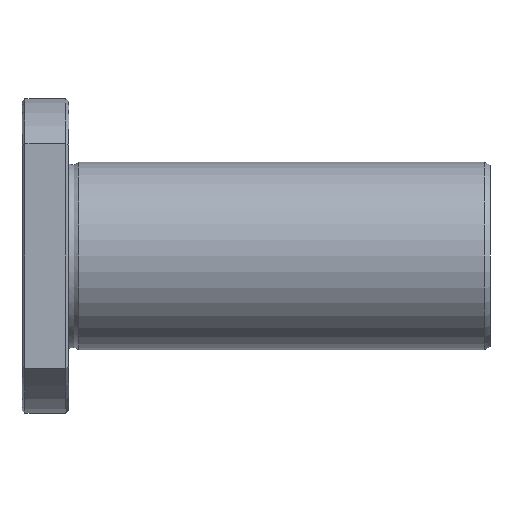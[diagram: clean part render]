
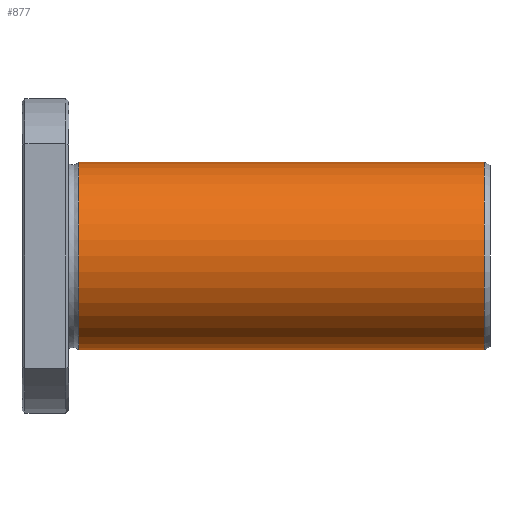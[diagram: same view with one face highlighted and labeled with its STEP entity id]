
A CAD part, front view. The second image highlights one B-rep face of the part: STEP entity #877.
In plain terms, the highlighted cylindrical face has radius 16 mm (diameter 32 mm), a full revolution.
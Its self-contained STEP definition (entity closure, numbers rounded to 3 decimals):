
#843=CARTESIAN_POINT('',(78.999,0.0,16.));
#844=VERTEX_POINT('',#843);
#845=CARTESIAN_POINT('',(78.999,0.0,0.0));
#846=DIRECTION('',(-1.0,0.0,0.0));
#847=DIRECTION('',(0.0,0.0,1.0));
#848=AXIS2_PLACEMENT_3D('',#845,#846,#847);
#849=CIRCLE('',#848,16.);
#850=EDGE_CURVE('',#844,#844,#849,.T.);
#858=CARTESIAN_POINT('',(44.359,0.0,0.0));
#859=DIRECTION('',(-1.0,0.0,0.0));
#860=DIRECTION('',(0.0,0.0,1.0));
#861=AXIS2_PLACEMENT_3D('',#858,#859,#860);
#862=CYLINDRICAL_SURFACE('',#861,16.);
#863=CARTESIAN_POINT('',(9.72,0.0,16.));
#864=VERTEX_POINT('',#863);
#865=CARTESIAN_POINT('',(9.72,0.0,0.0));
#866=DIRECTION('',(-1.0,0.0,0.0));
#867=DIRECTION('',(0.0,0.0,1.0));
#868=AXIS2_PLACEMENT_3D('',#865,#866,#867);
#869=CIRCLE('',#868,16.);
#870=EDGE_CURVE('',#864,#864,#869,.T.);
#871=ORIENTED_EDGE('',*,*,#870,.F.);
#872=EDGE_LOOP('',(#871));
#873=FACE_OUTER_BOUND('',#872,.T.);
#874=ORIENTED_EDGE('',*,*,#850,.T.);
#875=EDGE_LOOP('',(#874));
#876=FACE_BOUND('',#875,.T.);
#877=ADVANCED_FACE('',(#873,#876),#862,.T.);
